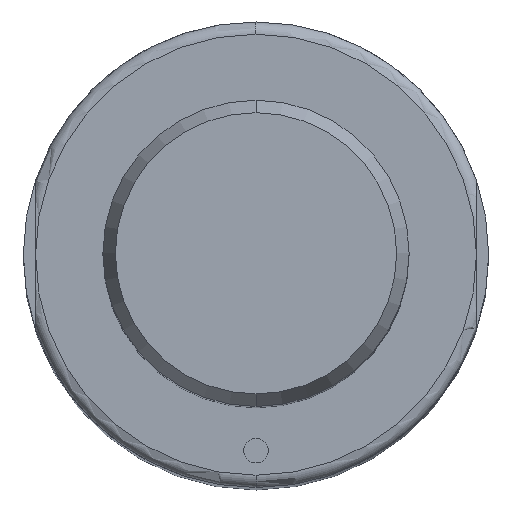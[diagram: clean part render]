
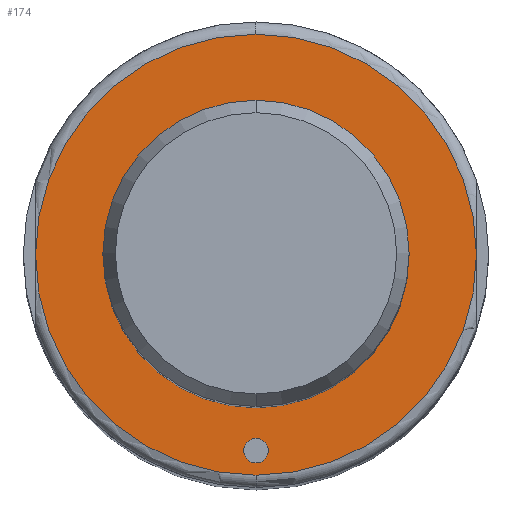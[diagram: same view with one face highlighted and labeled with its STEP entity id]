
A CAD part, top view. The second image highlights one B-rep face of the part: STEP entity #174.
In plain terms, the highlighted planar face has unit normal (0, 0, 1).
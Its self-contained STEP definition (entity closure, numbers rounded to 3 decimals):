
#105=FACE_BOUND('',#298,.T.);
#106=FACE_BOUND('',#299,.T.);
#107=FACE_BOUND('',#300,.T.);
#125=PLANE('',#985);
#174=ADVANCED_FACE('',(#105,#106,#107),#125,.T.);
#298=EDGE_LOOP('',(#459,#460,#461,#462));
#299=EDGE_LOOP('',(#463,#464));
#300=EDGE_LOOP('',(#465,#466));
#367=CIRCLE('',#968,12.5);
#368=CIRCLE('',#970,12.5);
#373=CIRCLE('',#979,18.);
#374=CIRCLE('',#980,18.);
#375=CIRCLE('',#981,18.);
#376=CIRCLE('',#982,18.);
#377=CIRCLE('',#983,1.);
#378=CIRCLE('',#984,1.);
#459=ORIENTED_EDGE('',*,*,#765,.F.);
#460=ORIENTED_EDGE('',*,*,#766,.F.);
#461=ORIENTED_EDGE('',*,*,#767,.F.);
#462=ORIENTED_EDGE('',*,*,#768,.F.);
#463=ORIENTED_EDGE('',*,*,#769,.F.);
#464=ORIENTED_EDGE('',*,*,#770,.F.);
#465=ORIENTED_EDGE('',*,*,#758,.T.);
#466=ORIENTED_EDGE('',*,*,#756,.T.);
#677=VERTEX_POINT('',#1411);
#678=VERTEX_POINT('',#1413);
#683=VERTEX_POINT('',#1432);
#684=VERTEX_POINT('',#1433);
#685=VERTEX_POINT('',#1435);
#686=VERTEX_POINT('',#1437);
#687=VERTEX_POINT('',#1440);
#688=VERTEX_POINT('',#1441);
#756=EDGE_CURVE('',#678,#677,#367,.T.);
#758=EDGE_CURVE('',#677,#678,#368,.T.);
#765=EDGE_CURVE('',#683,#684,#373,.T.);
#766=EDGE_CURVE('',#685,#683,#374,.T.);
#767=EDGE_CURVE('',#686,#685,#375,.T.);
#768=EDGE_CURVE('',#684,#686,#376,.T.);
#769=EDGE_CURVE('',#687,#688,#377,.T.);
#770=EDGE_CURVE('',#688,#687,#378,.T.);
#968=AXIS2_PLACEMENT_3D('',#1412,#1108,#1109);
#970=AXIS2_PLACEMENT_3D('',#1416,#1113,#1114);
#979=AXIS2_PLACEMENT_3D('',#1431,#1133,#1134);
#980=AXIS2_PLACEMENT_3D('',#1434,#1135,#1136);
#981=AXIS2_PLACEMENT_3D('',#1436,#1137,#1138);
#982=AXIS2_PLACEMENT_3D('',#1438,#1139,#1140);
#983=AXIS2_PLACEMENT_3D('',#1439,#1141,#1142);
#984=AXIS2_PLACEMENT_3D('',#1442,#1143,#1144);
#985=AXIS2_PLACEMENT_3D('',#1443,#1145,#1146);
#1108=DIRECTION('',(0.,0.,-1.));
#1109=DIRECTION('',(-1.,0.,0.));
#1113=DIRECTION('',(0.,0.,-1.));
#1114=DIRECTION('',(1.,0.,0.));
#1133=DIRECTION('',(0.,0.,-1.));
#1134=DIRECTION('',(-1.,0.,0.));
#1135=DIRECTION('',(0.,0.,-1.));
#1136=DIRECTION('',(1.,0.,0.));
#1137=DIRECTION('',(0.,0.,-1.));
#1138=DIRECTION('',(1.,0.,0.));
#1139=DIRECTION('',(0.,0.,-1.));
#1140=DIRECTION('',(-1.,0.,0.));
#1141=DIRECTION('',(0.,0.,1.));
#1142=DIRECTION('',(1.,0.,0.));
#1143=DIRECTION('',(0.,0.,1.));
#1144=DIRECTION('',(-1.,0.,0.));
#1145=DIRECTION('',(0.,0.,1.));
#1146=DIRECTION('',(1.,0.,0.));
#1411=CARTESIAN_POINT('',(0.,-12.5,120.));
#1412=CARTESIAN_POINT('',(0.,0.,120.));
#1413=CARTESIAN_POINT('',(0.,12.5,120.));
#1416=CARTESIAN_POINT('',(0.,0.,120.));
#1431=CARTESIAN_POINT('',(0.,0.,120.));
#1432=CARTESIAN_POINT('',(0.,18.,120.));
#1433=CARTESIAN_POINT('',(18.,0.,120.));
#1434=CARTESIAN_POINT('',(0.,0.,120.));
#1435=CARTESIAN_POINT('',(-18.,0.,120.));
#1436=CARTESIAN_POINT('',(0.,0.,120.));
#1437=CARTESIAN_POINT('',(0.,-18.,120.));
#1438=CARTESIAN_POINT('',(0.,0.,120.));
#1439=CARTESIAN_POINT('',(0.,-16.,120.));
#1440=CARTESIAN_POINT('',(0.,-15.,120.));
#1441=CARTESIAN_POINT('',(0.,-17.,120.));
#1442=CARTESIAN_POINT('',(0.,-16.,120.));
#1443=CARTESIAN_POINT('',(0.,0.,120.));
